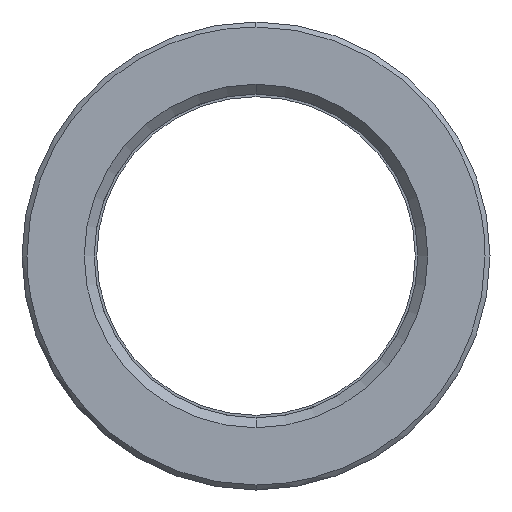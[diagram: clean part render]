
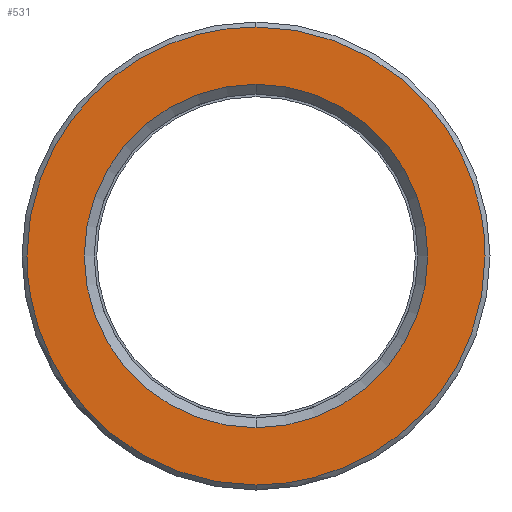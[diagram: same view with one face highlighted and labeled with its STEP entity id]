
A CAD part, left-side view. The second image highlights one B-rep face of the part: STEP entity #531.
In plain terms, the highlighted planar face has unit normal (-1, 0, 0).
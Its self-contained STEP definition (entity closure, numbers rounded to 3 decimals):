
#311=CARTESIAN_POINT('Axis2P3D Location',(0.,0.,0.)) ;
#315=CARTESIAN_POINT('Vertex',(0.,17.25,0.)) ;
#317=CARTESIAN_POINT('Vertex',(0.,0.,17.25)) ;
#320=CARTESIAN_POINT('Axis2P3D Location',(0.,0.,0.)) ;
#324=CARTESIAN_POINT('Vertex',(0.,0.,-17.25)) ;
#351=CARTESIAN_POINT('Axis2P3D Location',(0.,0.,0.)) ;
#355=CARTESIAN_POINT('Vertex',(0.,-17.25,0.)) ;
#358=CARTESIAN_POINT('Axis2P3D Location',(0.,0.,0.)) ;
#438=CARTESIAN_POINT('Axis2P3D Location',(0.,23.,0.)) ;
#444=CARTESIAN_POINT('Control Point',(0.,0.,-23.)) ;
#445=CARTESIAN_POINT('Control Point',(0.,1.232,-23.)) ;
#446=CARTESIAN_POINT('Control Point',(0.,2.465,-22.917)) ;
#447=CARTESIAN_POINT('Control Point',(0.,3.69,-22.752)) ;
#448=CARTESIAN_POINT('Control Point',(0.,6.977,-22.083)) ;
#449=CARTESIAN_POINT('Control Point',(0.,10.102,-20.826)) ;
#450=CARTESIAN_POINT('Control Point',(0.,11.977,-19.807)) ;
#451=CARTESIAN_POINT('Control Point',(0.,15.458,-17.357)) ;
#452=CARTESIAN_POINT('Control Point',(0.,18.293,-14.182)) ;
#453=CARTESIAN_POINT('Control Point',(0.,19.521,-12.437)) ;
#454=CARTESIAN_POINT('Control Point',(0.,21.386,-9.007)) ;
#455=CARTESIAN_POINT('Control Point',(0.,22.493,-5.271)) ;
#456=CARTESIAN_POINT('Control Point',(0.,22.831,-3.528)) ;
#457=CARTESIAN_POINT('Control Point',(0.,23.,-1.764)) ;
#458=CARTESIAN_POINT('Control Point',(0.,23.,0.)) ;
#459=CARTESIAN_POINT('Vertex',(0.,0.,-23.)) ;
#461=CARTESIAN_POINT('Vertex',(0.,23.,0.)) ;
#465=CARTESIAN_POINT('Control Point',(0.,-23.,0.)) ;
#466=CARTESIAN_POINT('Control Point',(0.,-23.,-2.115)) ;
#467=CARTESIAN_POINT('Control Point',(0.,-22.757,-4.229)) ;
#468=CARTESIAN_POINT('Control Point',(0.,-22.271,-6.306)) ;
#469=CARTESIAN_POINT('Control Point',(0.,-20.83,-10.312)) ;
#470=CARTESIAN_POINT('Control Point',(0.,-18.518,-13.886)) ;
#471=CARTESIAN_POINT('Control Point',(0.,-17.161,-15.532)) ;
#472=CARTESIAN_POINT('Control Point',(0.,-14.093,-18.483)) ;
#473=CARTESIAN_POINT('Control Point',(0.,-10.435,-20.661)) ;
#474=CARTESIAN_POINT('Control Point',(0.,-8.489,-21.534)) ;
#475=CARTESIAN_POINT('Control Point',(0.,-5.613,-22.443)) ;
#476=CARTESIAN_POINT('Control Point',(0.,-2.644,-22.873)) ;
#477=CARTESIAN_POINT('Control Point',(0.,-1.764,-22.958)) ;
#478=CARTESIAN_POINT('Control Point',(0.,-0.882,-23.)) ;
#479=CARTESIAN_POINT('Control Point',(0.,0.,-23.)) ;
#480=CARTESIAN_POINT('Vertex',(0.,-23.,0.)) ;
#484=CARTESIAN_POINT('Control Point',(0.,0.,23.)) ;
#485=CARTESIAN_POINT('Control Point',(0.,-1.232,23.)) ;
#486=CARTESIAN_POINT('Control Point',(0.,-2.465,22.917)) ;
#487=CARTESIAN_POINT('Control Point',(0.,-3.69,22.752)) ;
#488=CARTESIAN_POINT('Control Point',(0.,-6.977,22.083)) ;
#489=CARTESIAN_POINT('Control Point',(0.,-10.102,20.826)) ;
#490=CARTESIAN_POINT('Control Point',(0.,-11.977,19.807)) ;
#491=CARTESIAN_POINT('Control Point',(0.,-15.458,17.357)) ;
#492=CARTESIAN_POINT('Control Point',(0.,-18.293,14.182)) ;
#493=CARTESIAN_POINT('Control Point',(0.,-19.521,12.437)) ;
#494=CARTESIAN_POINT('Control Point',(0.,-21.386,9.007)) ;
#495=CARTESIAN_POINT('Control Point',(0.,-22.493,5.271)) ;
#496=CARTESIAN_POINT('Control Point',(0.,-22.831,3.528)) ;
#497=CARTESIAN_POINT('Control Point',(0.,-23.,1.764)) ;
#498=CARTESIAN_POINT('Control Point',(0.,-23.,0.)) ;
#499=CARTESIAN_POINT('Vertex',(0.,0.,23.)) ;
#503=CARTESIAN_POINT('Control Point',(0.,23.,0.)) ;
#504=CARTESIAN_POINT('Control Point',(0.,23.,2.115)) ;
#505=CARTESIAN_POINT('Control Point',(0.,22.757,4.229)) ;
#506=CARTESIAN_POINT('Control Point',(0.,22.271,6.306)) ;
#507=CARTESIAN_POINT('Control Point',(0.,20.83,10.312)) ;
#508=CARTESIAN_POINT('Control Point',(0.,18.518,13.886)) ;
#509=CARTESIAN_POINT('Control Point',(0.,17.161,15.532)) ;
#510=CARTESIAN_POINT('Control Point',(0.,14.093,18.483)) ;
#511=CARTESIAN_POINT('Control Point',(0.,10.435,20.661)) ;
#512=CARTESIAN_POINT('Control Point',(0.,8.489,21.534)) ;
#513=CARTESIAN_POINT('Control Point',(0.,5.613,22.443)) ;
#514=CARTESIAN_POINT('Control Point',(0.,2.644,22.873)) ;
#515=CARTESIAN_POINT('Control Point',(0.,1.764,22.958)) ;
#516=CARTESIAN_POINT('Control Point',(0.,0.882,23.)) ;
#517=CARTESIAN_POINT('Control Point',(0.,0.,23.)) ;
#312=DIRECTION('Axis2P3D Direction',(-1.,0.,0.)) ;
#321=DIRECTION('Axis2P3D Direction',(-1.,0.,0.)) ;
#352=DIRECTION('Axis2P3D Direction',(-1.,0.,0.)) ;
#359=DIRECTION('Axis2P3D Direction',(-1.,0.,0.)) ;
#439=DIRECTION('Axis2P3D Direction',(-1.,0.,0.)) ;
#440=DIRECTION('Axis2P3D XDirection',(0.,0.,1.)) ;
#313=AXIS2_PLACEMENT_3D('Circle Axis2P3D',#311,#312,$) ;
#322=AXIS2_PLACEMENT_3D('Circle Axis2P3D',#320,#321,$) ;
#353=AXIS2_PLACEMENT_3D('Circle Axis2P3D',#351,#352,$) ;
#360=AXIS2_PLACEMENT_3D('Circle Axis2P3D',#358,#359,$) ;
#441=AXIS2_PLACEMENT_3D('Plane Axis2P3D',#438,#439,#440) ;
#520=ORIENTED_EDGE('',*,*,#463,.F.) ;
#521=ORIENTED_EDGE('',*,*,#482,.F.) ;
#522=ORIENTED_EDGE('',*,*,#501,.F.) ;
#523=ORIENTED_EDGE('',*,*,#518,.F.) ;
#526=ORIENTED_EDGE('',*,*,#319,.T.) ;
#527=ORIENTED_EDGE('',*,*,#362,.T.) ;
#528=ORIENTED_EDGE('',*,*,#357,.T.) ;
#529=ORIENTED_EDGE('',*,*,#326,.T.) ;
#530=FACE_BOUND('',#525,.T.) ;
#531=ADVANCED_FACE('553-32X156',(#524,#530),#442,.T.) ;
#443=B_SPLINE_CURVE_WITH_KNOTS('',5,(#444,#445,#446,#447,#448,#449,#450,#451,#452,#453,#454,#455,#456,#457,#458),.UNSPECIFIED.,.F.,.U.,(6,3,3,3,6),(51.093,59.807,74.759,89.711,102.186),.UNSPECIFIED.) ;
#464=B_SPLINE_CURVE_WITH_KNOTS('',5,(#465,#466,#467,#468,#469,#470,#471,#472,#473,#474,#475,#476,#477,#478,#479),.UNSPECIFIED.,.F.,.U.,(6,3,3,3,6),(0.,14.952,29.904,44.855,51.093),.UNSPECIFIED.) ;
#483=B_SPLINE_CURVE_WITH_KNOTS('',5,(#484,#485,#486,#487,#488,#489,#490,#491,#492,#493,#494,#495,#496,#497,#498),.UNSPECIFIED.,.F.,.U.,(6,3,3,3,6),(51.093,59.807,74.759,89.711,102.186),.UNSPECIFIED.) ;
#502=B_SPLINE_CURVE_WITH_KNOTS('',5,(#503,#504,#505,#506,#507,#508,#509,#510,#511,#512,#513,#514,#515,#516,#517),.UNSPECIFIED.,.F.,.U.,(6,3,3,3,6),(0.,14.952,29.904,44.855,51.093),.UNSPECIFIED.) ;
#314=CIRCLE('generated circle',#313,17.25) ;
#323=CIRCLE('generated circle',#322,17.25) ;
#354=CIRCLE('generated circle',#353,17.25) ;
#361=CIRCLE('generated circle',#360,17.25) ;
#319=EDGE_CURVE('',#316,#318,#314,.F.) ;
#326=EDGE_CURVE('',#325,#316,#323,.F.) ;
#357=EDGE_CURVE('',#356,#325,#354,.F.) ;
#362=EDGE_CURVE('',#318,#356,#361,.F.) ;
#463=EDGE_CURVE('',#460,#462,#443,.T.) ;
#482=EDGE_CURVE('',#481,#460,#464,.T.) ;
#501=EDGE_CURVE('',#500,#481,#483,.T.) ;
#518=EDGE_CURVE('',#462,#500,#502,.T.) ;
#519=EDGE_LOOP('',(#520,#521,#522,#523)) ;
#525=EDGE_LOOP('',(#526,#527,#528,#529)) ;
#524=FACE_OUTER_BOUND('',#519,.T.) ;
#442=PLANE('Plane',#441) ;
#316=VERTEX_POINT('',#315) ;
#318=VERTEX_POINT('',#317) ;
#325=VERTEX_POINT('',#324) ;
#356=VERTEX_POINT('',#355) ;
#460=VERTEX_POINT('',#459) ;
#462=VERTEX_POINT('',#461) ;
#481=VERTEX_POINT('',#480) ;
#500=VERTEX_POINT('',#499) ;
